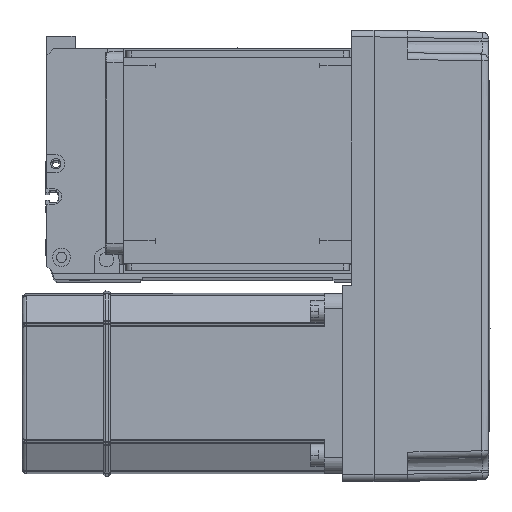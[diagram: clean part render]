
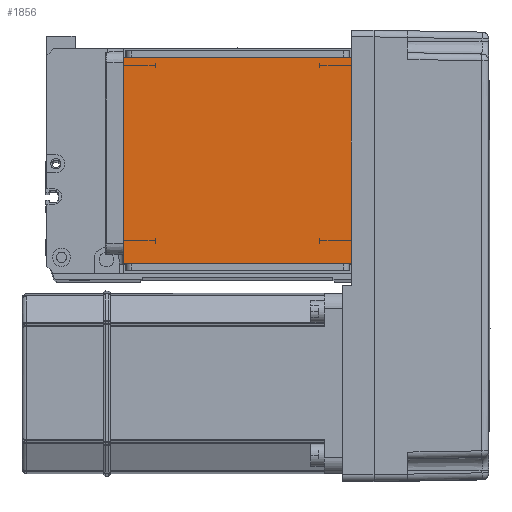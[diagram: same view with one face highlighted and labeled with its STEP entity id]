
A CAD part, top view. The second image highlights one B-rep face of the part: STEP entity #1856.
In plain terms, the highlighted planar face has unit normal (0, 0, 1).
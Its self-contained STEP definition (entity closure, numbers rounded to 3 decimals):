
#51 = LINE ( 'NONE', #47871, #29378 ) ;
#1856 = ADVANCED_FACE ( 'NONE', ( #34292 ), #25503, .T. ) ;
#1929 = EDGE_LOOP ( 'NONE', ( #20123, #8513, #36455, #30785 ) ) ;
#4059 = DIRECTION ( 'NONE',  ( -1., 0., 0. ) ) ;
#6947 = VECTOR ( 'NONE', #23883, 1000. ) ;
#8503 = VECTOR ( 'NONE', #28716, 1000. ) ;
#8513 = ORIENTED_EDGE ( 'NONE', *, *, #38683, .T. ) ;
#9988 = VERTEX_POINT ( 'NONE', #14517 ) ;
#12013 = VECTOR ( 'NONE', #4059, 1000. ) ;
#13191 = DIRECTION ( 'NONE',  ( 0., -1., 0. ) ) ;
#14517 = CARTESIAN_POINT ( 'NONE',  ( -50.5, 20., 115. ) ) ;
#17529 = VERTEX_POINT ( 'NONE', #30704 ) ;
#18246 = CARTESIAN_POINT ( 'NONE',  ( -50.5, 111.5, 115. ) ) ;
#18551 = LINE ( 'NONE', #33389, #6947 ) ;
#20123 = ORIENTED_EDGE ( 'NONE', *, *, #53545, .F. ) ;
#21436 = EDGE_CURVE ( 'NONE', #17529, #9988, #41290, .T. ) ;
#23883 = DIRECTION ( 'NONE',  ( 0., 1., 0. ) ) ;
#25326 = CARTESIAN_POINT ( 'NONE',  ( 0., 0., 115. ) ) ;
#25503 = PLANE ( 'NONE',  #51553 ) ;
#28101 = CARTESIAN_POINT ( 'NONE',  ( 50.5, 111.5, 115. ) ) ;
#28535 = CARTESIAN_POINT ( 'NONE',  ( -70.004, 111.5, 115. ) ) ;
#28716 = DIRECTION ( 'NONE',  ( 1., 0., 0. ) ) ;
#29378 = VECTOR ( 'NONE', #13191, 1000. ) ;
#30704 = CARTESIAN_POINT ( 'NONE',  ( 50.5, 20., 115. ) ) ;
#30785 = ORIENTED_EDGE ( 'NONE', *, *, #49234, .T. ) ;
#33389 = CARTESIAN_POINT ( 'NONE',  ( 50.5, 122., 115. ) ) ;
#34292 = FACE_OUTER_BOUND ( 'NONE', #1929, .T. ) ;
#36455 = ORIENTED_EDGE ( 'NONE', *, *, #21436, .F. ) ;
#38683 = EDGE_CURVE ( 'NONE', #41303, #9988, #51, .T. ) ;
#41290 = LINE ( 'NONE', #47878, #12013 ) ;
#41303 = VERTEX_POINT ( 'NONE', #18246 ) ;
#44612 = LINE ( 'NONE', #28535, #8503 ) ;
#47172 = DIRECTION ( 'NONE',  ( 0., 0., 1. ) ) ;
#47871 = CARTESIAN_POINT ( 'NONE',  ( -50.5, 122., 115. ) ) ;
#47878 = CARTESIAN_POINT ( 'NONE',  ( -70.004, 20., 115. ) ) ;
#49089 = VERTEX_POINT ( 'NONE', #28101 ) ;
#49234 = EDGE_CURVE ( 'NONE', #17529, #49089, #18551, .T. ) ;
#51553 = AXIS2_PLACEMENT_3D ( 'NONE', #25326, #47172, #55179 ) ;
#53545 = EDGE_CURVE ( 'NONE', #41303, #49089, #44612, .T. ) ;
#55179 = DIRECTION ( 'NONE',  ( 1., 0., 0. ) ) ;
